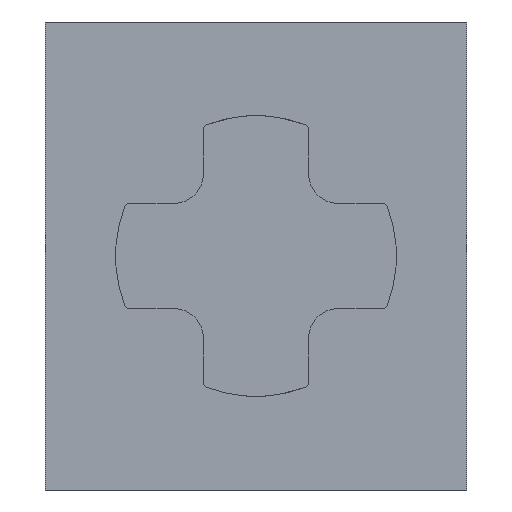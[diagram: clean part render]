
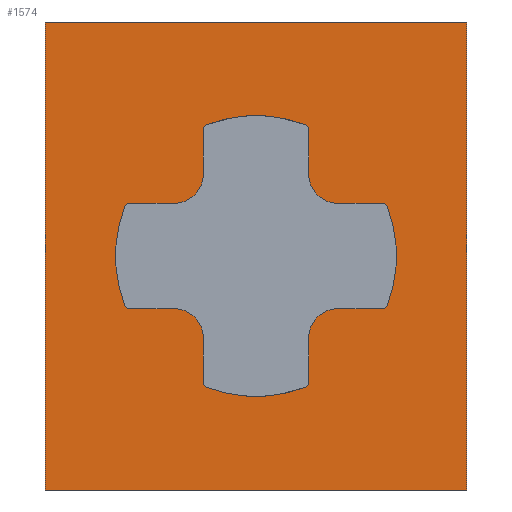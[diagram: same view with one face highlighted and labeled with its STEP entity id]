
A CAD part, front view. The second image highlights one B-rep face of the part: STEP entity #1574.
In plain terms, the highlighted planar face has unit normal (0, -1, 0).
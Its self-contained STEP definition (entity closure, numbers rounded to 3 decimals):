
#20=PLANE('',#1681);
#72=CIRCLE('',#1675,2.4);
#75=CIRCLE('',#1679,2.4);
#77=CIRCLE('',#1682,2.4);
#78=CIRCLE('',#1683,0.1);
#79=CIRCLE('',#1684,0.5);
#80=CIRCLE('',#1685,0.1);
#81=CIRCLE('',#1686,0.1);
#82=CIRCLE('',#1687,0.5);
#83=CIRCLE('',#1688,0.1);
#84=CIRCLE('',#1689,2.4);
#85=CIRCLE('',#1690,0.1);
#86=CIRCLE('',#1691,0.5);
#87=CIRCLE('',#1692,0.1);
#88=CIRCLE('',#1693,0.1);
#89=CIRCLE('',#1694,0.5);
#90=CIRCLE('',#1695,0.1);
#189=ORIENTED_EDGE('',*,*,#673,.F.);
#190=ORIENTED_EDGE('',*,*,#674,.F.);
#191=ORIENTED_EDGE('',*,*,#675,.T.);
#192=ORIENTED_EDGE('',*,*,#676,.T.);
#193=ORIENTED_EDGE('',*,*,#677,.T.);
#194=ORIENTED_EDGE('',*,*,#678,.T.);
#195=ORIENTED_EDGE('',*,*,#679,.T.);
#196=ORIENTED_EDGE('',*,*,#680,.T.);
#197=ORIENTED_EDGE('',*,*,#681,.T.);
#198=ORIENTED_EDGE('',*,*,#682,.T.);
#199=ORIENTED_EDGE('',*,*,#667,.T.);
#200=ORIENTED_EDGE('',*,*,#683,.T.);
#201=ORIENTED_EDGE('',*,*,#684,.T.);
#202=ORIENTED_EDGE('',*,*,#685,.T.);
#203=ORIENTED_EDGE('',*,*,#686,.T.);
#204=ORIENTED_EDGE('',*,*,#687,.T.);
#205=ORIENTED_EDGE('',*,*,#688,.T.);
#206=ORIENTED_EDGE('',*,*,#689,.T.);
#207=ORIENTED_EDGE('',*,*,#690,.T.);
#208=ORIENTED_EDGE('',*,*,#691,.T.);
#209=ORIENTED_EDGE('',*,*,#692,.T.);
#210=ORIENTED_EDGE('',*,*,#693,.T.);
#211=ORIENTED_EDGE('',*,*,#659,.T.);
#212=ORIENTED_EDGE('',*,*,#694,.T.);
#213=ORIENTED_EDGE('',*,*,#695,.T.);
#214=ORIENTED_EDGE('',*,*,#696,.T.);
#215=ORIENTED_EDGE('',*,*,#697,.T.);
#216=ORIENTED_EDGE('',*,*,#698,.T.);
#659=EDGE_CURVE('',#902,#901,#72,.T.);
#667=EDGE_CURVE('',#910,#909,#75,.T.);
#673=EDGE_CURVE('',#915,#916,#1057,.T.);
#674=EDGE_CURVE('',#917,#915,#1058,.T.);
#675=EDGE_CURVE('',#917,#918,#1059,.T.);
#676=EDGE_CURVE('',#918,#916,#1060,.T.);
#677=EDGE_CURVE('',#919,#920,#77,.T.);
#678=EDGE_CURVE('',#920,#921,#78,.F.);
#679=EDGE_CURVE('',#921,#922,#1061,.T.);
#680=EDGE_CURVE('',#922,#923,#79,.T.);
#681=EDGE_CURVE('',#923,#924,#1062,.T.);
#682=EDGE_CURVE('',#924,#910,#80,.F.);
#683=EDGE_CURVE('',#909,#925,#81,.F.);
#684=EDGE_CURVE('',#925,#926,#1063,.T.);
#685=EDGE_CURVE('',#926,#927,#82,.T.);
#686=EDGE_CURVE('',#927,#928,#1064,.T.);
#687=EDGE_CURVE('',#928,#929,#83,.F.);
#688=EDGE_CURVE('',#929,#930,#84,.T.);
#689=EDGE_CURVE('',#930,#931,#85,.F.);
#690=EDGE_CURVE('',#931,#932,#1065,.T.);
#691=EDGE_CURVE('',#932,#933,#86,.T.);
#692=EDGE_CURVE('',#933,#934,#1066,.T.);
#693=EDGE_CURVE('',#934,#902,#87,.F.);
#694=EDGE_CURVE('',#901,#935,#88,.F.);
#695=EDGE_CURVE('',#935,#936,#1067,.T.);
#696=EDGE_CURVE('',#936,#937,#89,.T.);
#697=EDGE_CURVE('',#937,#938,#1068,.T.);
#698=EDGE_CURVE('',#938,#919,#90,.F.);
#901=VERTEX_POINT('',#2409);
#902=VERTEX_POINT('',#2411);
#909=VERTEX_POINT('',#2429);
#910=VERTEX_POINT('',#2431);
#915=VERTEX_POINT('',#2446);
#916=VERTEX_POINT('',#2447);
#917=VERTEX_POINT('',#2449);
#918=VERTEX_POINT('',#2451);
#919=VERTEX_POINT('',#2454);
#920=VERTEX_POINT('',#2455);
#921=VERTEX_POINT('',#2457);
#922=VERTEX_POINT('',#2459);
#923=VERTEX_POINT('',#2461);
#924=VERTEX_POINT('',#2463);
#925=VERTEX_POINT('',#2466);
#926=VERTEX_POINT('',#2468);
#927=VERTEX_POINT('',#2470);
#928=VERTEX_POINT('',#2472);
#929=VERTEX_POINT('',#2474);
#930=VERTEX_POINT('',#2476);
#931=VERTEX_POINT('',#2478);
#932=VERTEX_POINT('',#2480);
#933=VERTEX_POINT('',#2482);
#934=VERTEX_POINT('',#2484);
#935=VERTEX_POINT('',#2487);
#936=VERTEX_POINT('',#2489);
#937=VERTEX_POINT('',#2491);
#938=VERTEX_POINT('',#2493);
#1057=LINE('',#2445,#1203);
#1058=LINE('',#2448,#1204);
#1059=LINE('',#2450,#1205);
#1060=LINE('',#2452,#1206);
#1061=LINE('',#2458,#1207);
#1062=LINE('',#2462,#1208);
#1063=LINE('',#2467,#1209);
#1064=LINE('',#2471,#1210);
#1065=LINE('',#2479,#1211);
#1066=LINE('',#2483,#1212);
#1067=LINE('',#2488,#1213);
#1068=LINE('',#2492,#1214);
#1203=VECTOR('',#1887,1000.);
#1204=VECTOR('',#1888,1000.);
#1205=VECTOR('',#1889,1000.);
#1206=VECTOR('',#1890,1000.);
#1207=VECTOR('',#1895,1000.);
#1208=VECTOR('',#1898,1000.);
#1209=VECTOR('',#1903,1000.);
#1210=VECTOR('',#1906,1000.);
#1211=VECTOR('',#1913,1000.);
#1212=VECTOR('',#1916,1000.);
#1213=VECTOR('',#1921,1000.);
#1214=VECTOR('',#1924,1000.);
#1341=EDGE_LOOP('',(#189,#190,#191,#192));
#1342=EDGE_LOOP('',(#193,#194,#195,#196,#197,#198,#199,#200,#201,#202,#203,
#204,#205,#206,#207,#208,#209,#210,#211,#212,#213,#214,#215,#216));
#1435=FACE_BOUND('',#1341,.T.);
#1436=FACE_BOUND('',#1342,.T.);
#1574=ADVANCED_FACE('',(#1435,#1436),#20,.T.);
#1675=AXIS2_PLACEMENT_3D('',#2410,#1866,#1867);
#1679=AXIS2_PLACEMENT_3D('',#2430,#1878,#1879);
#1681=AXIS2_PLACEMENT_3D('',#2444,#1885,#1886);
#1682=AXIS2_PLACEMENT_3D('',#2453,#1891,#1892);
#1683=AXIS2_PLACEMENT_3D('',#2456,#1893,#1894);
#1684=AXIS2_PLACEMENT_3D('',#2460,#1896,#1897);
#1685=AXIS2_PLACEMENT_3D('',#2464,#1899,#1900);
#1686=AXIS2_PLACEMENT_3D('',#2465,#1901,#1902);
#1687=AXIS2_PLACEMENT_3D('',#2469,#1904,#1905);
#1688=AXIS2_PLACEMENT_3D('',#2473,#1907,#1908);
#1689=AXIS2_PLACEMENT_3D('',#2475,#1909,#1910);
#1690=AXIS2_PLACEMENT_3D('',#2477,#1911,#1912);
#1691=AXIS2_PLACEMENT_3D('',#2481,#1914,#1915);
#1692=AXIS2_PLACEMENT_3D('',#2485,#1917,#1918);
#1693=AXIS2_PLACEMENT_3D('',#2486,#1919,#1920);
#1694=AXIS2_PLACEMENT_3D('',#2490,#1922,#1923);
#1695=AXIS2_PLACEMENT_3D('',#2494,#1925,#1926);
#1866=DIRECTION('',(0.,1.,0.));
#1867=DIRECTION('',(0.,0.,-1.));
#1878=DIRECTION('',(0.,1.,0.));
#1879=DIRECTION('',(0.,0.,1.));
#1885=DIRECTION('',(0.,-1.,0.));
#1886=DIRECTION('',(1.,0.,0.));
#1887=DIRECTION('',(-1.,0.,0.));
#1888=DIRECTION('',(0.,0.,-1.));
#1889=DIRECTION('',(-1.,0.,0.));
#1890=DIRECTION('',(0.,0.,-1.));
#1891=DIRECTION('',(0.,1.,0.));
#1892=DIRECTION('',(0.,0.,1.));
#1893=DIRECTION('',(0.,-1.,0.));
#1894=DIRECTION('',(1.,0.,0.));
#1895=DIRECTION('',(-1.,0.,0.));
#1896=DIRECTION('',(0.,-1.,0.));
#1897=DIRECTION('',(1.,0.,0.));
#1898=DIRECTION('',(0.,0.,-1.));
#1899=DIRECTION('',(0.,-1.,0.));
#1900=DIRECTION('',(1.,0.,0.));
#1901=DIRECTION('',(0.,-1.,0.));
#1902=DIRECTION('',(1.,0.,0.));
#1903=DIRECTION('',(0.,0.,1.));
#1904=DIRECTION('',(0.,-1.,0.));
#1905=DIRECTION('',(1.,0.,0.));
#1906=DIRECTION('',(-1.,0.,0.));
#1907=DIRECTION('',(0.,-1.,0.));
#1908=DIRECTION('',(1.,0.,0.));
#1909=DIRECTION('',(0.,1.,0.));
#1910=DIRECTION('',(0.,0.,1.));
#1911=DIRECTION('',(0.,-1.,0.));
#1912=DIRECTION('',(1.,0.,0.));
#1913=DIRECTION('',(1.,0.,0.));
#1914=DIRECTION('',(0.,-1.,0.));
#1915=DIRECTION('',(1.,0.,0.));
#1916=DIRECTION('',(0.,0.,1.));
#1917=DIRECTION('',(0.,-1.,0.));
#1918=DIRECTION('',(1.,0.,0.));
#1919=DIRECTION('',(0.,-1.,0.));
#1920=DIRECTION('',(1.,0.,0.));
#1921=DIRECTION('',(0.,0.,-1.));
#1922=DIRECTION('',(0.,-1.,0.));
#1923=DIRECTION('',(1.,0.,0.));
#1924=DIRECTION('',(1.,0.,0.));
#1925=DIRECTION('',(0.,-1.,0.));
#1926=DIRECTION('',(1.,0.,0.));
#2409=CARTESIAN_POINT('',(0.835,-10.4,6.25));
#2410=CARTESIAN_POINT('',(0.,-10.4,4.));
#2411=CARTESIAN_POINT('',(-0.835,-10.4,6.25));
#2429=CARTESIAN_POINT('',(-0.835,-10.4,1.75));
#2430=CARTESIAN_POINT('',(0.,-10.4,4.));
#2431=CARTESIAN_POINT('',(0.835,-10.4,1.75));
#2444=CARTESIAN_POINT('',(3.6,-10.4,8.));
#2445=CARTESIAN_POINT('',(3.6,-10.4,0.));
#2446=CARTESIAN_POINT('',(3.6,-10.4,0.));
#2447=CARTESIAN_POINT('',(-3.6,-10.4,0.));
#2448=CARTESIAN_POINT('',(3.6,-10.4,8.));
#2449=CARTESIAN_POINT('',(3.6,-10.4,8.));
#2450=CARTESIAN_POINT('',(3.6,-10.4,8.));
#2451=CARTESIAN_POINT('',(-3.6,-10.4,8.));
#2452=CARTESIAN_POINT('',(-3.6,-10.4,8.));
#2453=CARTESIAN_POINT('',(0.,-10.4,4.));
#2454=CARTESIAN_POINT('',(2.25,-10.4,4.835));
#2455=CARTESIAN_POINT('',(2.25,-10.4,3.165));
#2456=CARTESIAN_POINT('',(2.156,-10.4,3.2));
#2457=CARTESIAN_POINT('',(2.156,-10.4,3.1));
#2458=CARTESIAN_POINT('',(2.225,-10.4,3.1));
#2459=CARTESIAN_POINT('',(1.4,-10.4,3.1));
#2460=CARTESIAN_POINT('',(1.4,-10.4,2.6));
#2461=CARTESIAN_POINT('',(0.9,-10.4,2.6));
#2462=CARTESIAN_POINT('',(0.9,-10.4,1.775));
#2463=CARTESIAN_POINT('',(0.9,-10.4,1.844));
#2464=CARTESIAN_POINT('',(0.8,-10.4,1.844));
#2465=CARTESIAN_POINT('',(-0.8,-10.4,1.844));
#2466=CARTESIAN_POINT('',(-0.9,-10.4,1.844));
#2467=CARTESIAN_POINT('',(-0.9,-10.4,3.1));
#2468=CARTESIAN_POINT('',(-0.9,-10.4,2.6));
#2469=CARTESIAN_POINT('',(-1.4,-10.4,2.6));
#2470=CARTESIAN_POINT('',(-1.4,-10.4,3.1));
#2471=CARTESIAN_POINT('',(-0.9,-10.4,3.1));
#2472=CARTESIAN_POINT('',(-2.156,-10.4,3.1));
#2473=CARTESIAN_POINT('',(-2.156,-10.4,3.2));
#2474=CARTESIAN_POINT('',(-2.25,-10.4,3.165));
#2475=CARTESIAN_POINT('',(0.,-10.4,4.));
#2476=CARTESIAN_POINT('',(-2.25,-10.4,4.835));
#2477=CARTESIAN_POINT('',(-2.156,-10.4,4.8));
#2478=CARTESIAN_POINT('',(-2.156,-10.4,4.9));
#2479=CARTESIAN_POINT('',(-2.225,-10.4,4.9));
#2480=CARTESIAN_POINT('',(-1.4,-10.4,4.9));
#2481=CARTESIAN_POINT('',(-1.4,-10.4,5.4));
#2482=CARTESIAN_POINT('',(-0.9,-10.4,5.4));
#2483=CARTESIAN_POINT('',(-0.9,-10.4,6.225));
#2484=CARTESIAN_POINT('',(-0.9,-10.4,6.156));
#2485=CARTESIAN_POINT('',(-0.8,-10.4,6.156));
#2486=CARTESIAN_POINT('',(0.8,-10.4,6.156));
#2487=CARTESIAN_POINT('',(0.9,-10.4,6.156));
#2488=CARTESIAN_POINT('',(0.9,-10.4,4.9));
#2489=CARTESIAN_POINT('',(0.9,-10.4,5.4));
#2490=CARTESIAN_POINT('',(1.4,-10.4,5.4));
#2491=CARTESIAN_POINT('',(1.4,-10.4,4.9));
#2492=CARTESIAN_POINT('',(0.9,-10.4,4.9));
#2493=CARTESIAN_POINT('',(2.156,-10.4,4.9));
#2494=CARTESIAN_POINT('',(2.156,-10.4,4.8));
